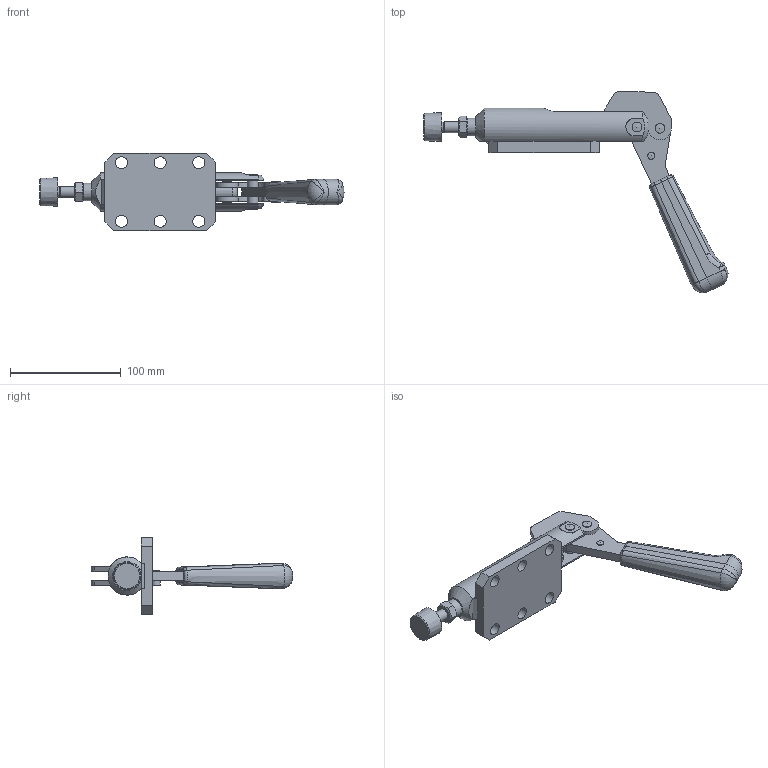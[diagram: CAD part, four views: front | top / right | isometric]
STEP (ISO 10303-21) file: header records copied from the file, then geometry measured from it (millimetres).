
FILE_DESCRIPTION(/* description */ (''),/* implementation_level */ '2;1');
FILE_NAME(/* name */ '/Users/eric/Desktop/Abco 2046 Pull:Tirée.stp',/* time_stamp */ '2014-08-15T02:00:20+10:00',/* author */ (''),/* organization */ (''),/* preprocessor_version */ 'ST-DEVELOPER v14.6',/* originating_system */ '',/* authorisation */ '');
FILE_SCHEMA (('AUTOMOTIVE_DESIGN { 1 2 10303 214 1 1 1 1 }'));
Length unit declared in the file: centimetre
Products named in the file (1): 1234-K789
Bounding box: 275.25 x 182.15 x 70 mm (x, y, z)
Volume: 251808.8 mm3; surface area: 97469.9 mm2
Topology: 23 solids, 23 shells, 258 faces, 594 edges, 374 vertices
Faces by surface type: plane 116, cylinder 71, cone 34, bspline 22, torus 8, sphere 7
Full cylindrical faces by diameter (mm): 6 x2, 8 x17, 8.376 x2, 9.188 x1, 10 x5, 11 x6, 12 x4, 14 x2, 15.4 x2, 16 x2
Entity records: 7560 total; most frequent: CARTESIAN_POINT 2231, DIRECTION 1073, ORIENTED_EDGE 996, EDGE_CURVE 498, AXIS2_PLACEMENT_3D 441, EDGE_LOOP 376, VERTEX_POINT 354, ADVANCED_FACE 258
